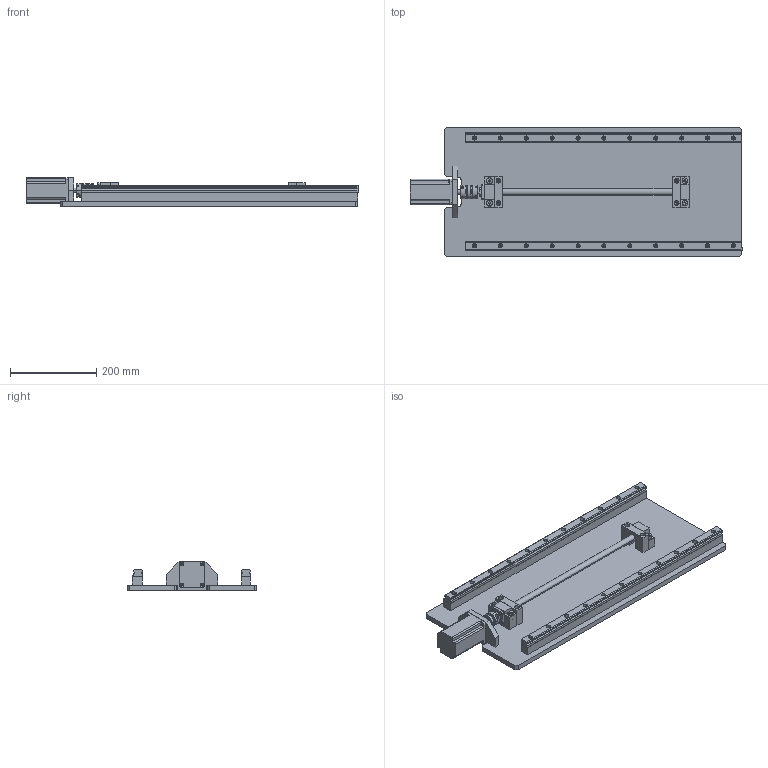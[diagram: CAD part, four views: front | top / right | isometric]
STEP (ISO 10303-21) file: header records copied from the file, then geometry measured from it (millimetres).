
FILE_DESCRIPTION (( 'STEP AP214' ), '1' );
FILE_NAME ('No000031_Base.STEP', '2020-07-20T10:21:55', ( '' ), ( '' ), 'SwSTEP 2.0', 'SolidWorks 2017', '' );
FILE_SCHEMA (( 'AUTOMOTIVE_DESIGN' ));
Length unit declared in the file: millimetre
Products named in the file (27): SHAFT_0031_005_BSS1505-500; 0031_201_Plate; NEZI-1_CPDW32-10-11; 0031_101_Motor_MHMD021S1CA; 0031_304_SCB6-25; BODY_CPDW32-10-11; No000031_Base; COLLAR_BSW12; NAT_BSW12; RAIL_0031_003_SV2R-MX28-640-WC; BEARING_BUN12; HOUSING_BUN12; 0031_301_SCB6-20; 0031_308_SCB4-15; 0031_005_BSS1505-500; 0031_006_BUN12; 0031_008_BSTS12; _0031_SA01; 0031_003_SV2R-MX28-640-WC; 0031_307_SCB5-12; 0031_303_SCB8-30; 0031_001_ABETA28-640-20; 0031_004_BSW12; HOUSING_BSW12; 0031_009_CPDW32-10-11; 0031_002_ABETE28-640-20; 0031_202_Motor_Bracket
Assembly tree (41 placements, depth 4):
  No000031_Base
    _0031_SA01
      0031_001_ABETA28-640-20
      0031_002_ABETE28-640-20
      0031_003_SV2R-MX28-640-WC  x2
        RAIL_0031_003_SV2R-MX28-640-WC
      0031_004_BSW12
        HOUSING_BSW12
        COLLAR_BSW12
        NAT_BSW12
      0031_005_BSS1505-500
        SHAFT_0031_005_BSS1505-500
      0031_006_BUN12
        HOUSING_BUN12
        BEARING_BUN12
      0031_008_BSTS12  x2
      0031_009_CPDW32-10-11
        BODY_CPDW32-10-11
        NEZI-1_CPDW32-10-11  x4
      0031_101_Motor_MHMD021S1CA
      0031_201_Plate
      0031_202_Motor_Bracket
      0031_301_SCB6-20  x2
      0031_303_SCB8-30  x4
      0031_304_SCB6-25  x4
      0031_307_SCB5-12  x4
      0031_308_SCB4-15
Bounding box: 769.5 x 300 x 67 mm (x, y, z)
Volume: 4010180.9 mm3; surface area: 817421.1 mm2
Topology: 35 solids, 35 shells, 1350 faces, 3223 edges, 2040 vertices
Faces by surface type: cylinder 608, plane 594, cone 130, torus 18
Entity records: 31642 total; most frequent: CARTESIAN_POINT 5458, DIRECTION 5354, ORIENTED_EDGE 4592, EDGE_CURVE 2296, AXIS2_PLACEMENT_3D 2109, VERTEX_POINT 1493, EDGE_LOOP 1287, LINE 1136
